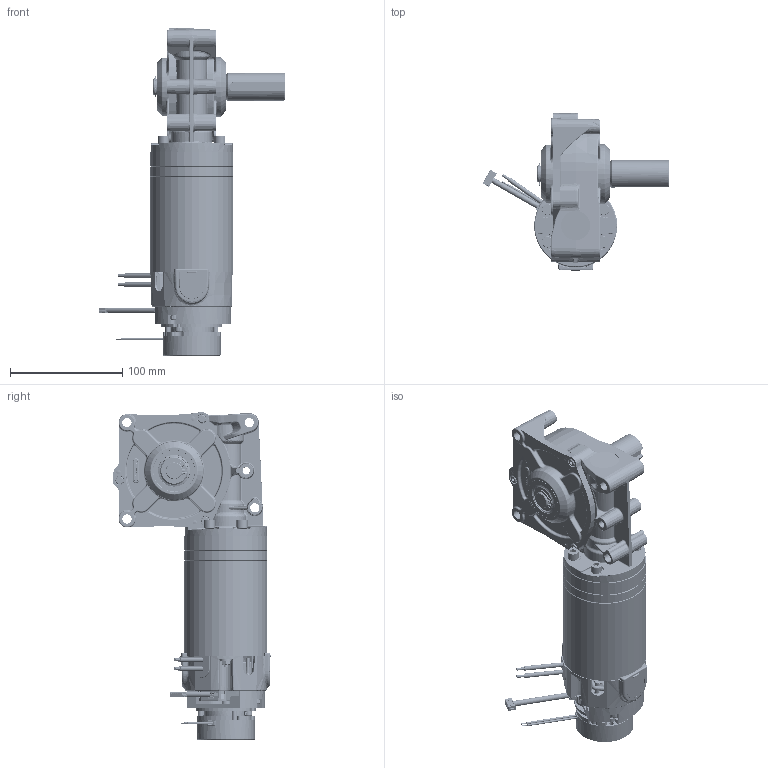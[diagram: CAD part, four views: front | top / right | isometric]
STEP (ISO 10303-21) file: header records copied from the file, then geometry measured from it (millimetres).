
FILE_DESCRIPTION (( 'STEP AP214' ), '1' );
FILE_NAME ('BRx70-40-GB12 - Encoder - Brake - Shaft (render model).STEP', '2024-01-10T16:24:27', ( '' ), ( '' ), 'SwSTEP 2.0', 'SolidWorks 2023', '' );
FILE_SCHEMA (( 'AUTOMOTIVE_DESIGN' ));
Length unit declared in the file: millimetre
Products named in the file (1): BRx70-40-GB12 - Encoder - Brake - Shaft (render model)
Bounding box: 166.41 x 141.46 x 292.29 mm (x, y, z)
Surface area: 307745.2 mm2 (no closed solid volume)
Topology: 0 solids, 79 shells, 7870 faces, 20118 edges, 12467 vertices
Faces by surface type: cylinder 2665, plane 2634, bspline 1160, cone 716, torus 579, sphere 116
Entity records: 378703 total; most frequent: CARTESIAN_POINT 117699, ORIENTED_EDGE 39834, DIRECTION 31536, EDGE_CURVE 19919, AXIS2_PLACEMENT_3D 12719, VERTEX_POINT 12463, EDGE_LOOP 8466, UNCERTAINTY_MEASURE_WITH_UNIT 7949
